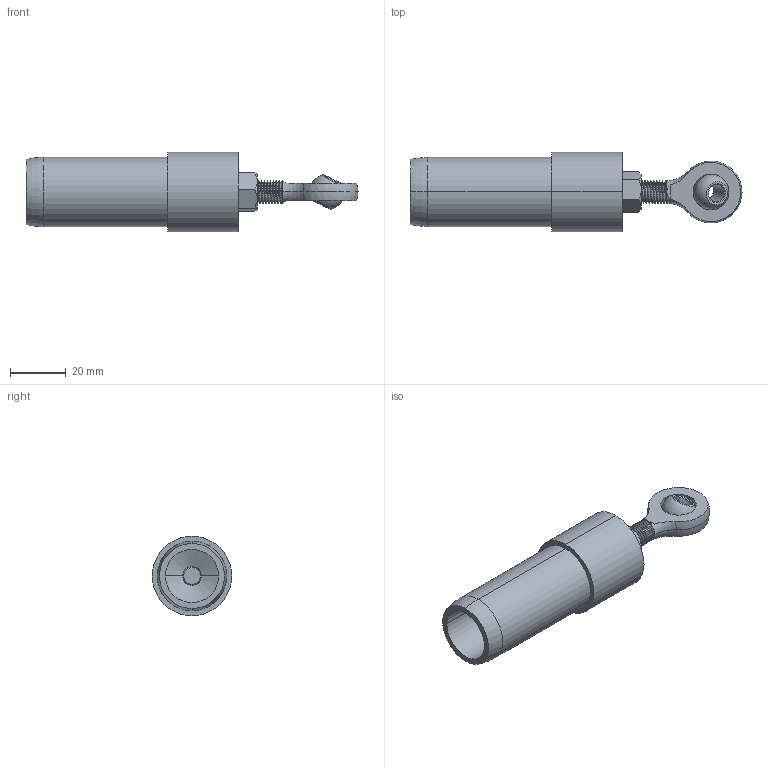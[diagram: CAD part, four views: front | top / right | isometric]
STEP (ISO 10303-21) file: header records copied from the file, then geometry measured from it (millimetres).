
FILE_DESCRIPTION (( 'STEP AP214' ), '1' );
FILE_NAME ('DRP-002-0558-01.STEP', '2013-12-20T17:31:22', ( 'ydmin' ), ( 'Microsoft' ), 'SwSTEP 2.0', 'SolidWorks 2013', '' );
FILE_SCHEMA (( 'AUTOMOTIVE_DESIGN' ));
Length unit declared in the file: inch
Products named in the file (1): DRP-002-0558-01
Bounding box: 119.06 x 28.57 x 28.57 mm (x, y, z)
Volume: 29575.5 mm3; surface area: 15710.8 mm2
Topology: 5 solids, 5 shells, 169 faces, 416 edges, 258 vertices
Faces by surface type: cylinder 91, cone 37, plane 21, bspline 11, torus 5, sphere 4
Entity records: 15817 total; most frequent: CARTESIAN_POINT 9939, ORIENTED_EDGE 828, DIRECTION 685, EDGE_CURVE 414, AXIS2_PLACEMENT_3D 267, VERTEX_POINT 258, EDGE_LOOP 180, LENGTH_MEASURE_WITH_UNIT 176
